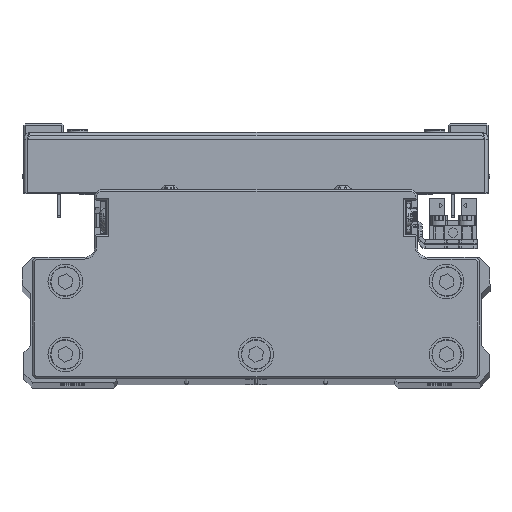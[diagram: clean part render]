
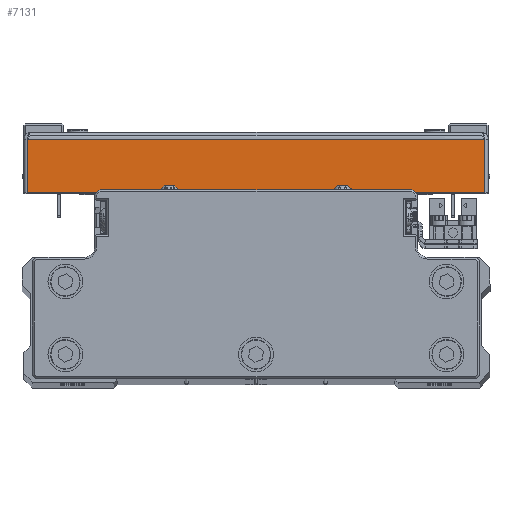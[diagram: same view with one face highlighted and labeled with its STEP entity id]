
A CAD part, top view. The second image highlights one B-rep face of the part: STEP entity #7131.
In plain terms, the highlighted planar face has unit normal (0, 0, 1) as drawn and (1, 0, 0) by its records, which use the part's own axes.
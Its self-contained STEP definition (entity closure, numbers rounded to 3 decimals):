
#3607 = LINE ( 'NONE', #17166, #33060 ) ;
#4630 = LINE ( 'NONE', #18182, #10144 ) ;
#4764 = LINE ( 'NONE', #18316, #16218 ) ;
#7023 = DIRECTION ( 'NONE',  ( 0., 1., 0. ) ) ;
#7131 = ADVANCED_FACE ( 'NONE', ( #13035 ), #26614, .F. ) ;
#8427 = VERTEX_POINT ( 'NONE', #29550 ) ;
#9583 = VERTEX_POINT ( 'NONE', #16219 ) ;
#9689 = DIRECTION ( 'NONE',  ( -1., 0., 0. ) ) ;
#10144 = VECTOR ( 'NONE', #31785, 1000. ) ;
#11509 = EDGE_CURVE ( 'NONE', #34261, #9583, #23913, .T. ) ;
#11989 = VECTOR ( 'NONE', #7023, 1000. ) ;
#13035 = FACE_OUTER_BOUND ( 'NONE', #29218, .T. ) ;
#13896 = ORIENTED_EDGE ( 'NONE', *, *, #42383, .F. ) ;
#16218 = VECTOR ( 'NONE', #31922, 1000. ) ;
#16219 = CARTESIAN_POINT ( 'NONE',  ( 75., 16.5, -65.929 ) ) ;
#17166 = CARTESIAN_POINT ( 'NONE',  ( 75., 16.5, 0. ) ) ;
#18182 = CARTESIAN_POINT ( 'NONE',  ( 75., 0., 65.929 ) ) ;
#18316 = CARTESIAN_POINT ( 'NONE',  ( 75., 1., 67. ) ) ;
#18572 = CARTESIAN_POINT ( 'NONE',  ( 75., 1., -65.929 ) ) ;
#21472 = ORIENTED_EDGE ( 'NONE', *, *, #23177, .F. ) ;
#22431 = AXIS2_PLACEMENT_3D ( 'NONE', #40277, #9689, #23254 ) ;
#23177 = EDGE_CURVE ( 'NONE', #34261, #8427, #4764, .T. ) ;
#23254 = DIRECTION ( 'NONE',  ( 0., -1., 0. ) ) ;
#23530 = ORIENTED_EDGE ( 'NONE', *, *, #37378, .T. ) ;
#23913 = LINE ( 'NONE', #37570, #11989 ) ;
#24519 = ORIENTED_EDGE ( 'NONE', *, *, #11509, .T. ) ;
#25699 = VERTEX_POINT ( 'NONE', #32422 ) ;
#26614 = PLANE ( 'NONE',  #22431 ) ;
#29218 = EDGE_LOOP ( 'NONE', ( #21472, #24519, #23530, #13896 ) ) ;
#29550 = CARTESIAN_POINT ( 'NONE',  ( 75., 1., 65.929 ) ) ;
#30768 = DIRECTION ( 'NONE',  ( 0., 0., 1. ) ) ;
#31785 = DIRECTION ( 'NONE',  ( 0., 1., 0. ) ) ;
#31922 = DIRECTION ( 'NONE',  ( 0., 0., 1. ) ) ;
#32422 = CARTESIAN_POINT ( 'NONE',  ( 75., 16.5, 65.929 ) ) ;
#33060 = VECTOR ( 'NONE', #30768, 1000. ) ;
#34261 = VERTEX_POINT ( 'NONE', #18572 ) ;
#37378 = EDGE_CURVE ( 'NONE', #9583, #25699, #3607, .T. ) ;
#37570 = CARTESIAN_POINT ( 'NONE',  ( 75., 0., -65.929 ) ) ;
#40277 = CARTESIAN_POINT ( 'NONE',  ( 75., 0., 0. ) ) ;
#42383 = EDGE_CURVE ( 'NONE', #8427, #25699, #4630, .T. ) ;
